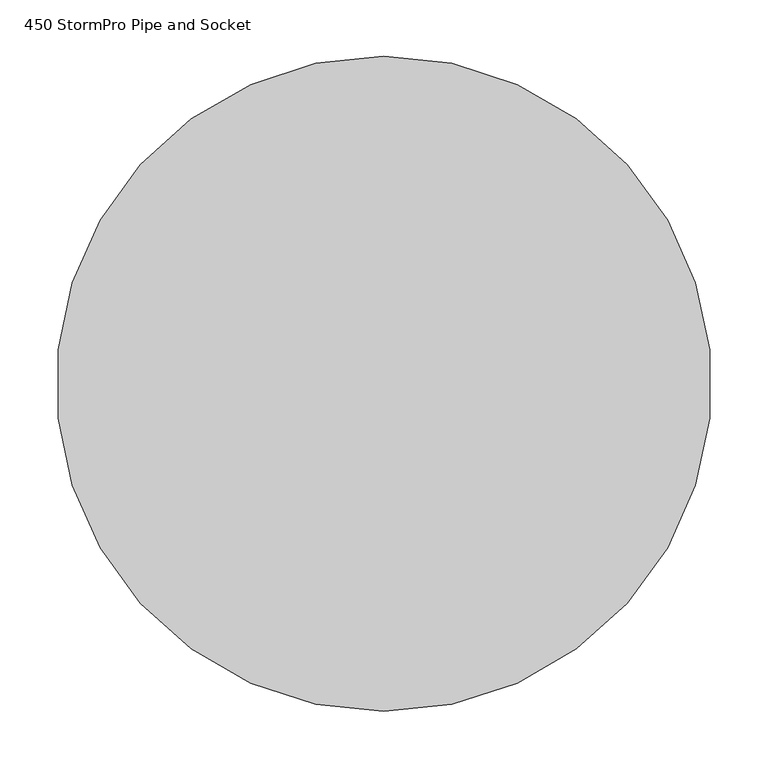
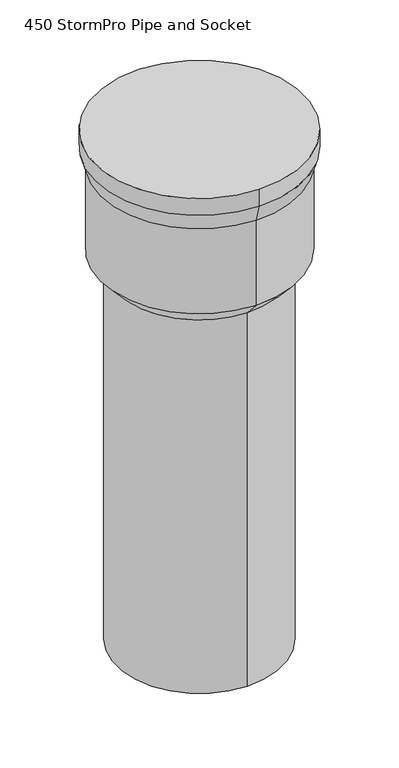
"""IFC4 building model written with IfcOpenShell, lengths in millimetres: proxy geometry, 450 StormPro Pipe and Socket."""

from ifc_helpers import new_model, si_unit, frame, origin, place, context, project, spatial, polyline, circle_curve, source, transform, mapped, element, save
from ifc_brep_helpers import plane_surface, cylinder_surface, revolved_surface, advanced_brep


def proxy_450_stormpro_pipe_and_socket_69f10140(model_context):
    return source(origin(), model_context, "Body", "AdvancedBrep", [
        advanced_brep(
        [(0.0, 231.0, 2700.0), (0.0, 276.0, 2750.0), (0.0, -276.0, 2750.0), (0.0, -231.0, 2700.0), (0.0, 231.0, 1600.0), (0.0, -231.0, 1600.0), (0.0, 291.0, 3050.0), (0.0, 291.0, 3100.0), (0.0, -291.0, 3100.0), (0.0, -291.0, 3050.0), (0.0, 276.0, 3000.0), (0.0, -276.0, 3000.0), (-199.6867895, -116.1300396, 1600.0)],
        [
            (0, 1),
            (1, 2, circle_curve(frame((0.0, 0.0, 2750.0), z_axis=(0.0, 0.0, -1.0), x_axis=(0.0, -1.0, 0.0)), 276.0)),
            (2, 3),
            (3, 0, circle_curve(frame((0.0, 0.0, 2700.0), z_axis=(0.0, 0.0, 1.0), x_axis=(0.0, -1.0, 0.0)), 231.0)),
            (4, 0),
            (3, 5),
            (5, 4, circle_curve(frame((0.0, 0.0, 1600.0), z_axis=(0.0, 0.0, 1.0), x_axis=(0.0, 1.0, 0.0)), 231.0)),
            (6, 7),
            (7, 8, circle_curve(frame((0.0, 0.0, 3100.0), z_axis=(0.0, 0.0, -1.0), x_axis=(0.0, 1.0, 0.0)), 291.0)),
            (8, 9),
            (9, 6, circle_curve(frame((0.0, 0.0, 3050.0), z_axis=(0.0, 0.0, 1.0), x_axis=(0.0, 1.0, 0.0)), 291.0)),
            (10, 6),
            (9, 11),
            (11, 10, circle_curve(frame((0.0, 0.0, 3000.0), z_axis=(0.0, 0.0, 1.0), x_axis=(0.0, -1.0, 0.0)), 276.0)),
            (1, 10),
            (11, 2),
            (7, 8, circle_curve(frame((0.0, 0.0, 3100.0), z_axis=(0.0, 0.0, 1.0), x_axis=(0.0, 1.0, 0.0)), 291.0)),
            (5, 12, circle_curve(frame((0.0, 0.0, 1600.0), z_axis=(0.0, 0.0, -1.0), x_axis=(0.0, 1.0, 0.0)), 231.0)),
            (12, 4, circle_curve(frame((0.0, 0.0, 1600.0), z_axis=(0.0, 0.0, -1.0), x_axis=(0.0, 1.0, 0.0)), 231.0)),
            (1, 2, circle_curve(frame((0.0, 0.0, 2750.0), z_axis=(0.0, 0.0, 1.0), x_axis=(0.0, 1.0, 0.0)), 276.0)),
            (11, 10, circle_curve(frame((0.0, 0.0, 3000.0), z_axis=(0.0, 0.0, -1.0), x_axis=(0.0, 1.0, 0.0)), 276.0)),
            (9, 6, circle_curve(frame((0.0, 0.0, 3050.0), z_axis=(0.0, 0.0, -1.0), x_axis=(0.0, 1.0, 0.0)), 291.0)),
            (3, 0, circle_curve(frame((0.0, 0.0, 2700.0), z_axis=(0.0, 0.0, -1.0), x_axis=(0.0, 1.0, 0.0)), 231.0)),
        ],
        [
            revolved_surface(polyline([(0.0, 231.0000000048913, 2700.0), (0.0, 276.0, 2750.0)]), (0.0, 0.0, 2443.3333333), (0.0, 0.0, 1.0)),
            cylinder_surface(frame((0.0, 0.0, 1350.0), z_axis=(0.0, 0.0, 1.0), x_axis=(0.0, 1.0, 0.0)), 231.0),
            cylinder_surface(frame((0.0, 0.0, 3075.0), z_axis=(0.0, 0.0, 1.0), x_axis=(0.0, 1.0, 0.0)), 291.0),
            revolved_surface(polyline([(0.0, 276.0, 3000.0), (0.0, 291.0, 3050.0)]), (0.0, 0.0, 2080.0), (0.0, 0.0, 1.0)),
            cylinder_surface(frame((0.0, 0.0, 2875.0), z_axis=(0.0, 0.0, 1.0), x_axis=(0.0, 1.0, 0.0)), 276.0),
            plane_surface(frame((0.0, 285.0, 3100.0), z_axis=(0.0, 0.0, 1.0), x_axis=(1.0, 0.0, 0.0))),
            plane_surface(frame((0.0, 0.0, 1600.0), z_axis=(0.0, 0.0, -1.0), x_axis=(-0.8644449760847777, -0.5027274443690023, 0.0))),
        ],
        [
            (0, [[1, 2, 3, 4]]),
            (1, [[5, -4, 6, 7]]),
            (2, [[8, 9, 10, 11]]),
            (3, [[12, -11, 13, 14]]),
            (4, [[15, -14, 16, -2]]),
            (5, [[17, -9]]),
            (6, [[18, 19, -7]]),
            (4, [[-15, 20, -16, 21]]),
            (3, [[-12, -21, -13, 22]]),
            (2, [[-8, -22, -10, -17]]),
            (1, [[-5, -19, -18, -6, 23]]),
            (0, [[-1, -23, -3, -20]]),
        ],
    ),
    ])


if __name__ == "__main__":
    model = new_model("IFC4")
    model_context = context("Model", 3, world=origin())
    ifc_project = project(units=[si_unit("LENGTHUNIT", "METRE", prefix="MILLI")], contexts=[model_context])
    site = spatial("IfcSite", under=ifc_project)
    building = spatial("IfcBuilding", under=site)
    placement = place(None, origin())
    proxy_450_stormpro_pipe_and_socket_shape = proxy_450_stormpro_pipe_and_socket_69f10140(model_context)
    element("IfcBuildingElementProxy", 1, Name="450 StormPro Pipe and Socket", ObjectType="450 StormPro Pipe and Socket", at=placement, inside=building, context=model_context, shape_type="MappedRepresentation", body=[
        mapped(proxy_450_stormpro_pipe_and_socket_shape, transform((0.0, 0.0, 0.0), x_axis=(1.0, 0.0, 0.0), y_axis=(0.0, 1.0, 0.0), z_axis=(0.0, 0.0, 1.0))),
    ])
    save(model, "model.ifc")
